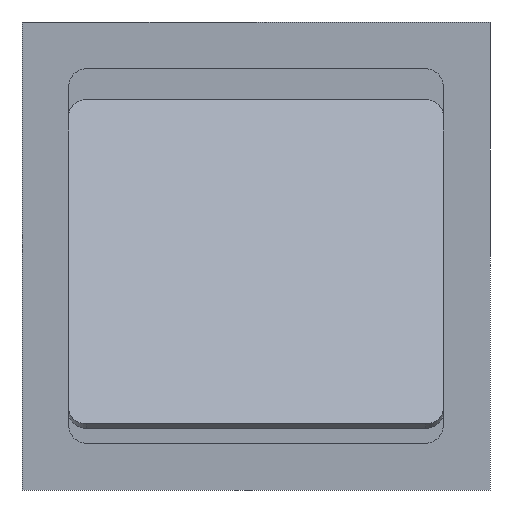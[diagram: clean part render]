
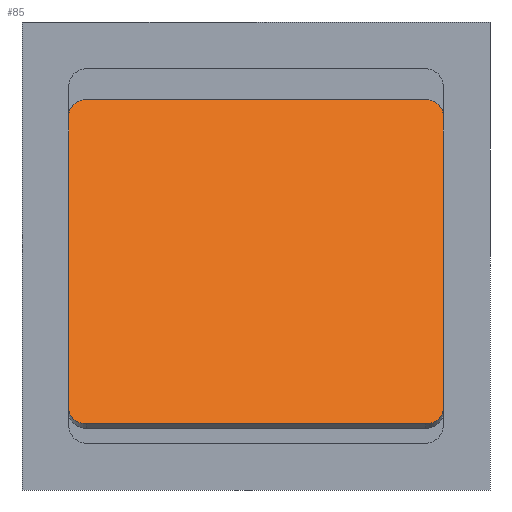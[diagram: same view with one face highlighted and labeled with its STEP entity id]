
A CAD part, front view. The second image highlights one B-rep face of the part: STEP entity #85.
In plain terms, the highlighted planar face has unit normal (0, -0.866, 0.5).
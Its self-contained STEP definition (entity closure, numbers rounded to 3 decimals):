
#85 = ADVANCED_FACE( '', ( #139 ), #140, .F. );
#139 = FACE_OUTER_BOUND( '', #229, .T. );
#140 = PLANE( '', #230 );
#229 = EDGE_LOOP( '', ( #408, #409, #410, #411, #412, #413, #414, #415, #416, #417 ) );
#230 = AXIS2_PLACEMENT_3D( '', #418, #419, #420 );
#408 = ORIENTED_EDGE( '', *, *, #700, .F. );
#409 = ORIENTED_EDGE( '', *, *, #701, .F. );
#410 = ORIENTED_EDGE( '', *, *, #702, .F. );
#411 = ORIENTED_EDGE( '', *, *, #703, .F. );
#412 = ORIENTED_EDGE( '', *, *, #666, .F. );
#413 = ORIENTED_EDGE( '', *, *, #699, .F. );
#414 = ORIENTED_EDGE( '', *, *, #704, .F. );
#415 = ORIENTED_EDGE( '', *, *, #705, .F. );
#416 = ORIENTED_EDGE( '', *, *, #645, .F. );
#417 = ORIENTED_EDGE( '', *, *, #706, .F. );
#418 = CARTESIAN_POINT( '', ( 3., -39.799, -26.097 ) );
#419 = DIRECTION( '', ( 0., 0.866, -0.5 ) );
#420 = DIRECTION( '', ( 0., 0.5, 0.866 ) );
#645 = EDGE_CURVE( '', #757, #759, #760, .T. );
#666 = EDGE_CURVE( '', #797, #799, #800, .T. );
#699 = EDGE_CURVE( '', #852, #797, #854, .T. );
#700 = EDGE_CURVE( '', #855, #856, #857, .T. );
#701 = EDGE_CURVE( '', #858, #855, #859, .T. );
#702 = EDGE_CURVE( '', #860, #858, #861, .T. );
#703 = EDGE_CURVE( '', #799, #860, #862, .T. );
#704 = EDGE_CURVE( '', #863, #852, #864, .T. );
#705 = EDGE_CURVE( '', #759, #863, #865, .T. );
#706 = EDGE_CURVE( '', #856, #757, #866, .T. );
#757 = VERTEX_POINT( '', #941 );
#759 = VERTEX_POINT( '', #944 );
#760 = LINE( '', #945, #946 );
#797 = VERTEX_POINT( '', #998 );
#799 = VERTEX_POINT( '', #1001 );
#800 = LINE( '', #1002, #1003 );
#852 = VERTEX_POINT( '', #1073 );
#854 = CIRCLE( '', #1076, 3. );
#855 = VERTEX_POINT( '', #1077 );
#856 = VERTEX_POINT( '', #1078 );
#857 = CIRCLE( '', #1079, 3. );
#858 = VERTEX_POINT( '', #1080 );
#859 = LINE( '', #1081, #1082 );
#860 = VERTEX_POINT( '', #1083 );
#861 = CIRCLE( '', #1084, 3. );
#862 = LINE( '', #1085, #1086 );
#863 = VERTEX_POINT( '', #1087 );
#864 = LINE( '', #1088, #1089 );
#865 = CIRCLE( '', #1090, 3. );
#866 = LINE( '', #1091, #1092 );
#941 = CARTESIAN_POINT( '', ( 0., -14.5, 17.722 ) );
#944 = CARTESIAN_POINT( '', ( 0., -10.799, 24.133 ) );
#945 = CARTESIAN_POINT( '', ( 0., -39.799, -26.097 ) );
#946 = VECTOR( '', #1189, 1000. );
#998 = CARTESIAN_POINT( '', ( 64., -10.799, 24.133 ) );
#1001 = CARTESIAN_POINT( '', ( 64., -14.5, 17.722 ) );
#1002 = CARTESIAN_POINT( '', ( 64., -10.799, 24.133 ) );
#1003 = VECTOR( '', #1218, 1000. );
#1073 = CARTESIAN_POINT( '', ( 61., -9.299, 26.731 ) );
#1076 = AXIS2_PLACEMENT_3D( '', #1277, #1278, #1279 );
#1077 = CARTESIAN_POINT( '', ( 3., -41.299, -28.695 ) );
#1078 = CARTESIAN_POINT( '', ( 0., -39.799, -26.097 ) );
#1079 = AXIS2_PLACEMENT_3D( '', #1280, #1281, #1282 );
#1080 = CARTESIAN_POINT( '', ( 61., -41.299, -28.695 ) );
#1081 = CARTESIAN_POINT( '', ( 61., -41.299, -28.695 ) );
#1082 = VECTOR( '', #1283, 1000. );
#1083 = CARTESIAN_POINT( '', ( 64., -39.799, -26.097 ) );
#1084 = AXIS2_PLACEMENT_3D( '', #1284, #1285, #1286 );
#1085 = CARTESIAN_POINT( '', ( 64., -10.799, 24.133 ) );
#1086 = VECTOR( '', #1287, 1000. );
#1087 = CARTESIAN_POINT( '', ( 3., -9.299, 26.731 ) );
#1088 = CARTESIAN_POINT( '', ( 3., -9.299, 26.731 ) );
#1089 = VECTOR( '', #1288, 1000. );
#1090 = AXIS2_PLACEMENT_3D( '', #1289, #1290, #1291 );
#1091 = CARTESIAN_POINT( '', ( 0., -39.799, -26.097 ) );
#1092 = VECTOR( '', #1292, 1000. );
#1189 = DIRECTION( '', ( 0., 0.5, 0.866 ) );
#1218 = DIRECTION( '', ( 0., -0.5, -0.866 ) );
#1277 = CARTESIAN_POINT( '', ( 61., -10.799, 24.133 ) );
#1278 = DIRECTION( '', ( 0., 0.866, -0.5 ) );
#1279 = DIRECTION( '', ( 1., 0., 0. ) );
#1280 = CARTESIAN_POINT( '', ( 3., -39.799, -26.097 ) );
#1281 = DIRECTION( '', ( 0., 0.866, -0.5 ) );
#1282 = DIRECTION( '', ( 1., 0., 0. ) );
#1283 = DIRECTION( '', ( -1., 0., 0. ) );
#1284 = CARTESIAN_POINT( '', ( 61., -39.799, -26.097 ) );
#1285 = DIRECTION( '', ( 0., 0.866, -0.5 ) );
#1286 = DIRECTION( '', ( 1., 0., 0. ) );
#1287 = DIRECTION( '', ( 0., -0.5, -0.866 ) );
#1288 = DIRECTION( '', ( 1., 0., 0. ) );
#1289 = CARTESIAN_POINT( '', ( 3., -10.799, 24.133 ) );
#1290 = DIRECTION( '', ( 0., 0.866, -0.5 ) );
#1291 = DIRECTION( '', ( 1., 0., 0. ) );
#1292 = DIRECTION( '', ( 0., 0.5, 0.866 ) );
